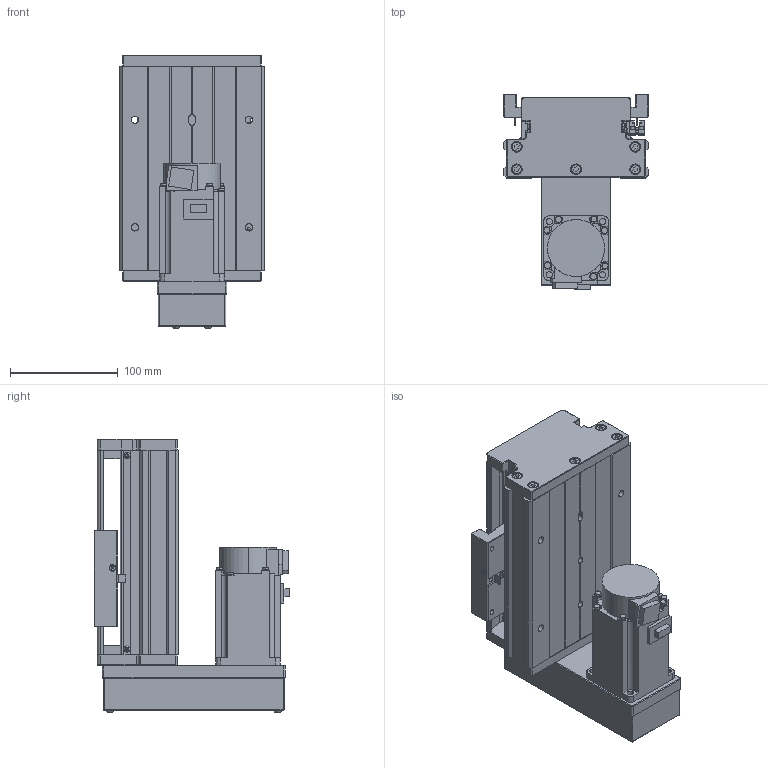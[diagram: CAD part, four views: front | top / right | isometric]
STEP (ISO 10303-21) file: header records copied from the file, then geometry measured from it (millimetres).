
FILE_DESCRIPTION (( 'STEP AP203' ), '1' );
FILE_NAME ('KTH130-50-BM-M40-C4.step', '2023-06-30T04:04:45', ( '微软用户' ), ( '微软中国' ), 'SwSTEP 2.0', 'SolidWorks 2020', '' );
FILE_SCHEMA (( 'CONFIG_CONTROL_DESIGN' ));
Length unit declared in the file: millimetre
Products named in the file (19): KTH130-005; GBT 70.1-M3℅5; GTH14-033; GB1155-6X6; GBT77-2000 M3×3; KTH130-50-BM-M40-C4; GBT70.1 M5℅16; す晦芛蹟隊 M3℅5; GBT 70.2-M3¡Á5_M3¡Á6; GBT 70.3-M3℅8; GTH14-001_50; CTHA60-017; HG-KN43J-S100; KTH130-002_KTH130-002; EE_SX911P_R; GBT 70.2-M4¡Á35_M4¡Á35; KTH130-004; CTHA60-016; GTH14-015-2_CTHA86-015-2
Assembly tree (53 placements, depth 2):
  KTH130-50-BM-M40-C4
    GTH14-001_50
    KTH130-002_KTH130-002
    KTH130-004
    KTH130-005
    GB1155-6X6  x2
    GBT70.1 M5℅16  x10
    GBT 70.2-M3¡Á5_M3¡Á6  x4
    CTHA60-017  x3
    EE_SX911P_R  x3
    CTHA60-016  x2
    GBT 70.1-M3℅5  x6
    GBT77-2000 M3×3  x6
    す晦芛蹟隊 M3℅5  x2
    GBT 70.3-M3℅8  x4
    HG-KN43J-S100
    GBT 70.2-M4¡Á35_M4¡Á35  x4
    GTH14-015-2_CTHA86-015-2
    GTH14-033
Bounding box: 135 x 181.8 x 254.2 mm (x, y, z)
Volume: 1828816.9 mm3; surface area: 368194.5 mm2
Topology: 56 solids, 56 shells, 2193 faces, 5294 edges, 3294 vertices
Faces by surface type: plane 1191, cylinder 588, cone 290, torus 100, sphere 24
Entity records: 39634 total; most frequent: CARTESIAN_POINT 8484, DIRECTION 5859, ORIENTED_EDGE 5788, EDGE_CURVE 2894, AXIS2_PLACEMENT_3D 2000, LINE 1859, VECTOR 1859, VERTEX_POINT 1847
